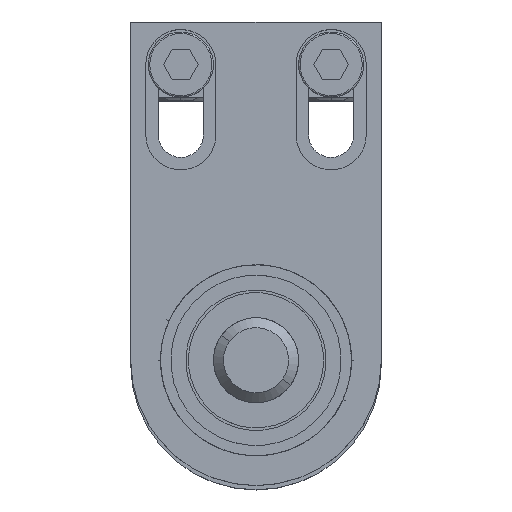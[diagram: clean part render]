
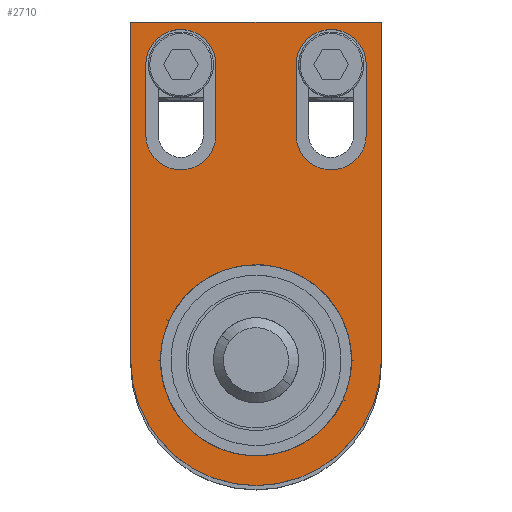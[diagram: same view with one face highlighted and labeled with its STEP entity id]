
A CAD part, top view. The second image highlights one B-rep face of the part: STEP entity #2710.
In plain terms, the highlighted planar face has unit normal (0, 0, 1).
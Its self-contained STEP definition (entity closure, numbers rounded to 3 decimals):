
#53 = EDGE_CURVE ( 'NONE', #3136, #5898, #593, .T. ) ;
#64 = CARTESIAN_POINT ( 'NONE',  ( -8., 59., 6. ) ) ;
#292 = ORIENTED_EDGE ( 'NONE', *, *, #624, .F. ) ;
#296 = FACE_BOUND ( 'NONE', #4832, .T. ) ;
#410 = EDGE_LOOP ( 'NONE', ( #3819, #5996 ) ) ;
#419 = CARTESIAN_POINT ( 'NONE',  ( 0., 0., 6. ) ) ;
#448 = EDGE_CURVE ( 'NONE', #2268, #3902, #4226, .T. ) ;
#593 = LINE ( 'NONE', #4776, #2023 ) ;
#619 = CARTESIAN_POINT ( 'NONE',  ( -22., 59., 6. ) ) ;
#623 = DIRECTION ( 'NONE',  ( 0., -1., 0. ) ) ;
#624 = EDGE_CURVE ( 'NONE', #5898, #5903, #2767, .T. ) ;
#639 = CARTESIAN_POINT ( 'NONE',  ( 25., 67.5, 6. ) ) ;
#646 = CARTESIAN_POINT ( 'NONE',  ( -22., 59., 6. ) ) ;
#648 = CARTESIAN_POINT ( 'NONE',  ( -25., 67.5, 6. ) ) ;
#852 = DIRECTION ( 'NONE',  ( 1., 0., 0. ) ) ;
#875 = DIRECTION ( 'NONE',  ( 0., 0., 1. ) ) ;
#928 = VECTOR ( 'NONE', #4996, 1000. ) ;
#965 = AXIS2_PLACEMENT_3D ( 'NONE', #4321, #5929, #1423 ) ;
#989 = LINE ( 'NONE', #5235, #928 ) ;
#1032 = CARTESIAN_POINT ( 'NONE',  ( -19.079, 0., 6. ) ) ;
#1050 = CARTESIAN_POINT ( 'NONE',  ( 8., 45., 6. ) ) ;
#1078 = DIRECTION ( 'NONE',  ( 0., 0., 1. ) ) ;
#1270 = ORIENTED_EDGE ( 'NONE', *, *, #3081, .F. ) ;
#1423 = DIRECTION ( 'NONE',  ( 1., 0., 0. ) ) ;
#1427 = EDGE_CURVE ( 'NONE', #3654, #3136, #3091, .T. ) ;
#1436 = AXIS2_PLACEMENT_3D ( 'NONE', #419, #3482, #852 ) ;
#1441 = CARTESIAN_POINT ( 'NONE',  ( 25., 0., 6. ) ) ;
#1527 = VECTOR ( 'NONE', #5372, 1000. ) ;
#1605 = EDGE_LOOP ( 'NONE', ( #292, #1649, #3559, #4125 ) ) ;
#1649 = ORIENTED_EDGE ( 'NONE', *, *, #53, .F. ) ;
#1703 = DIRECTION ( 'NONE',  ( 0., 0., 1. ) ) ;
#1709 = CARTESIAN_POINT ( 'NONE',  ( -25., 0., 6. ) ) ;
#1710 = LINE ( 'NONE', #619, #4184 ) ;
#1717 = CARTESIAN_POINT ( 'NONE',  ( 19.079, 0., 6. ) ) ;
#1720 = EDGE_CURVE ( 'NONE', #2062, #5425, #1710, .T. ) ;
#1764 = EDGE_CURVE ( 'NONE', #5005, #3628, #1969, .T. ) ;
#1811 = ORIENTED_EDGE ( 'NONE', *, *, #3127, .F. ) ;
#1912 = DIRECTION ( 'NONE',  ( 0., 1., 0. ) ) ;
#1942 = ORIENTED_EDGE ( 'NONE', *, *, #1720, .F. ) ;
#1957 = CARTESIAN_POINT ( 'NONE',  ( -22., 45., 6. ) ) ;
#1969 = CIRCLE ( 'NONE', #2679, 19.079 ) ;
#2013 = CARTESIAN_POINT ( 'NONE',  ( 0., 0., 6. ) ) ;
#2023 = VECTOR ( 'NONE', #3156, 1000. ) ;
#2062 = VERTEX_POINT ( 'NONE', #646 ) ;
#2115 = CARTESIAN_POINT ( 'NONE',  ( 22., 45., 6. ) ) ;
#2137 = VERTEX_POINT ( 'NONE', #64 ) ;
#2214 = AXIS2_PLACEMENT_3D ( 'NONE', #3754, #1078, #4285 ) ;
#2268 = VERTEX_POINT ( 'NONE', #648 ) ;
#2403 = EDGE_CURVE ( 'NONE', #4258, #2268, #4558, .T. ) ;
#2482 = DIRECTION ( 'NONE',  ( 0., 0., 1. ) ) ;
#2584 = ORIENTED_EDGE ( 'NONE', *, *, #448, .T. ) ;
#2625 = DIRECTION ( 'NONE',  ( 1., 0., 0. ) ) ;
#2630 = EDGE_CURVE ( 'NONE', #4140, #4258, #3875, .T. ) ;
#2679 = AXIS2_PLACEMENT_3D ( 'NONE', #2013, #2482, #2625 ) ;
#2710 = ADVANCED_FACE ( 'NONE', ( #3383, #296, #3464, #4441 ), #5093, .T. ) ;
#2767 = CIRCLE ( 'NONE', #2808, 7. ) ;
#2808 = AXIS2_PLACEMENT_3D ( 'NONE', #3670, #3669, #3653 ) ;
#2903 = CIRCLE ( 'NONE', #5508, 19.079 ) ;
#3081 = EDGE_CURVE ( 'NONE', #4454, #2137, #4244, .T. ) ;
#3091 = CIRCLE ( 'NONE', #3409, 7. ) ;
#3120 = EDGE_CURVE ( 'NONE', #3902, #4140, #3853, .T. ) ;
#3127 = EDGE_CURVE ( 'NONE', #5425, #4454, #3906, .T. ) ;
#3136 = VERTEX_POINT ( 'NONE', #2115 ) ;
#3156 = DIRECTION ( 'NONE',  ( 0., 1., 0. ) ) ;
#3383 = FACE_BOUND ( 'NONE', #1605, .T. ) ;
#3409 = AXIS2_PLACEMENT_3D ( 'NONE', #5165, #5281, #5347 ) ;
#3448 = DIRECTION ( 'NONE',  ( 0., 1., 0. ) ) ;
#3464 = FACE_BOUND ( 'NONE', #410, .T. ) ;
#3482 = DIRECTION ( 'NONE',  ( 0., 0., 1. ) ) ;
#3500 = CARTESIAN_POINT ( 'NONE',  ( 0., 0., 6. ) ) ;
#3559 = ORIENTED_EDGE ( 'NONE', *, *, #1427, .F. ) ;
#3628 = VERTEX_POINT ( 'NONE', #1032 ) ;
#3653 = DIRECTION ( 'NONE',  ( 1., 0., 0. ) ) ;
#3654 = VERTEX_POINT ( 'NONE', #1050 ) ;
#3669 = DIRECTION ( 'NONE',  ( 0., 0., 1. ) ) ;
#3670 = CARTESIAN_POINT ( 'NONE',  ( 15., 59., 6. ) ) ;
#3674 = DIRECTION ( 'NONE',  ( -1., 0., 0. ) ) ;
#3754 = CARTESIAN_POINT ( 'NONE',  ( -15., 59., 6. ) ) ;
#3819 = ORIENTED_EDGE ( 'NONE', *, *, #4934, .F. ) ;
#3853 = CIRCLE ( 'NONE', #1436, 25. ) ;
#3869 = VECTOR ( 'NONE', #1912, 1000. ) ;
#3875 = LINE ( 'NONE', #1441, #3869 ) ;
#3902 = VERTEX_POINT ( 'NONE', #1709 ) ;
#3906 = CIRCLE ( 'NONE', #4255, 7. ) ;
#4011 = CIRCLE ( 'NONE', #2214, 7. ) ;
#4027 = DIRECTION ( 'NONE',  ( 1., 0., 0. ) ) ;
#4084 = VECTOR ( 'NONE', #3448, 1000. ) ;
#4125 = ORIENTED_EDGE ( 'NONE', *, *, #5772, .F. ) ;
#4140 = VERTEX_POINT ( 'NONE', #4198 ) ;
#4184 = VECTOR ( 'NONE', #623, 1000. ) ;
#4198 = CARTESIAN_POINT ( 'NONE',  ( 25., 0., 6. ) ) ;
#4226 = LINE ( 'NONE', #5544, #1527 ) ;
#4244 = LINE ( 'NONE', #5859, #4084 ) ;
#4255 = AXIS2_PLACEMENT_3D ( 'NONE', #4500, #1703, #5003 ) ;
#4258 = VERTEX_POINT ( 'NONE', #639 ) ;
#4263 = EDGE_CURVE ( 'NONE', #2137, #2062, #4011, .T. ) ;
#4285 = DIRECTION ( 'NONE',  ( 1., 0., 0. ) ) ;
#4321 = CARTESIAN_POINT ( 'NONE',  ( 0., 0., 6. ) ) ;
#4392 = EDGE_LOOP ( 'NONE', ( #5515, #4905, #5570, #2584 ) ) ;
#4441 = FACE_OUTER_BOUND ( 'NONE', #4392, .T. ) ;
#4454 = VERTEX_POINT ( 'NONE', #5328 ) ;
#4500 = CARTESIAN_POINT ( 'NONE',  ( -15., 45., 6. ) ) ;
#4526 = VECTOR ( 'NONE', #3674, 1000. ) ;
#4537 = CARTESIAN_POINT ( 'NONE',  ( 22., 59., 6. ) ) ;
#4558 = LINE ( 'NONE', #5026, #4526 ) ;
#4776 = CARTESIAN_POINT ( 'NONE',  ( 22., 59., 6. ) ) ;
#4832 = EDGE_LOOP ( 'NONE', ( #5538, #1270, #1811, #1942 ) ) ;
#4905 = ORIENTED_EDGE ( 'NONE', *, *, #2630, .T. ) ;
#4934 = EDGE_CURVE ( 'NONE', #3628, #5005, #2903, .T. ) ;
#4996 = DIRECTION ( 'NONE',  ( 0., -1., 0. ) ) ;
#5003 = DIRECTION ( 'NONE',  ( 1., 0., 0. ) ) ;
#5005 = VERTEX_POINT ( 'NONE', #1717 ) ;
#5026 = CARTESIAN_POINT ( 'NONE',  ( 25., 67.5, 6. ) ) ;
#5075 = CARTESIAN_POINT ( 'NONE',  ( 8., 59., 6. ) ) ;
#5093 = PLANE ( 'NONE',  #965 ) ;
#5165 = CARTESIAN_POINT ( 'NONE',  ( 15., 45., 6. ) ) ;
#5235 = CARTESIAN_POINT ( 'NONE',  ( 8., 59., 6. ) ) ;
#5281 = DIRECTION ( 'NONE',  ( 0., 0., 1. ) ) ;
#5328 = CARTESIAN_POINT ( 'NONE',  ( -8., 45., 6. ) ) ;
#5347 = DIRECTION ( 'NONE',  ( 1., 0., 0. ) ) ;
#5372 = DIRECTION ( 'NONE',  ( 0., -1., 0. ) ) ;
#5425 = VERTEX_POINT ( 'NONE', #1957 ) ;
#5508 = AXIS2_PLACEMENT_3D ( 'NONE', #3500, #875, #4027 ) ;
#5515 = ORIENTED_EDGE ( 'NONE', *, *, #3120, .T. ) ;
#5538 = ORIENTED_EDGE ( 'NONE', *, *, #4263, .F. ) ;
#5544 = CARTESIAN_POINT ( 'NONE',  ( -25., 0., 6. ) ) ;
#5570 = ORIENTED_EDGE ( 'NONE', *, *, #2403, .T. ) ;
#5772 = EDGE_CURVE ( 'NONE', #5903, #3654, #989, .T. ) ;
#5859 = CARTESIAN_POINT ( 'NONE',  ( -8., 59., 6. ) ) ;
#5898 = VERTEX_POINT ( 'NONE', #4537 ) ;
#5903 = VERTEX_POINT ( 'NONE', #5075 ) ;
#5929 = DIRECTION ( 'NONE',  ( 0., 0., 1. ) ) ;
#5996 = ORIENTED_EDGE ( 'NONE', *, *, #1764, .F. ) ;
